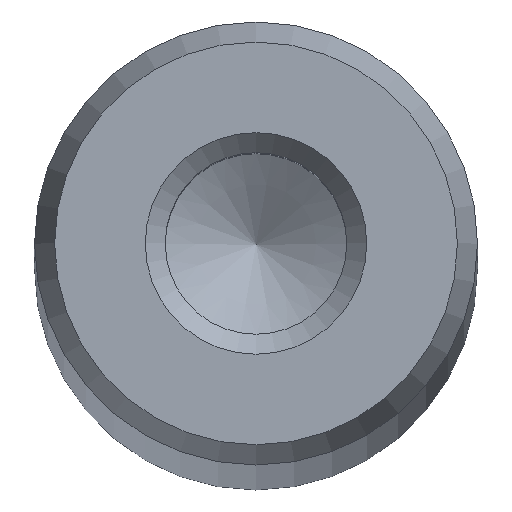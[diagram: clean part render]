
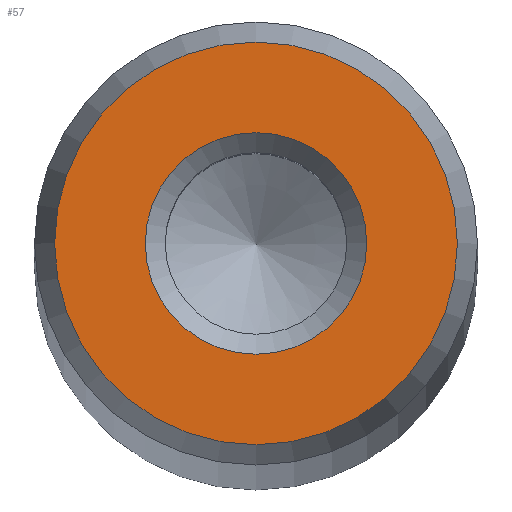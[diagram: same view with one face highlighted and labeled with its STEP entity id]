
A CAD part, top view. The second image highlights one B-rep face of the part: STEP entity #57.
In plain terms, the highlighted planar face has unit normal (0, 0, 1).
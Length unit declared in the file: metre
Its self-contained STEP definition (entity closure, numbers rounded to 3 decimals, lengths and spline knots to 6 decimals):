
#57 = ADVANCED_FACE( '', ( #120, #121 ), #122, .T. );
#120 = FACE_OUTER_BOUND( '', #179, .T. );
#121 = FACE_BOUND( '', #180, .T. );
#122 = PLANE( '', #181 );
#179 = EDGE_LOOP( '', ( #252 ) );
#180 = EDGE_LOOP( '', ( #253 ) );
#181 = AXIS2_PLACEMENT_3D( '', #254, #255, #256 );
#252 = ORIENTED_EDGE( '', *, *, #286, .T. );
#253 = ORIENTED_EDGE( '', *, *, #293, .T. );
#254 = CARTESIAN_POINT( '', ( 0., 0., 0.389 ) );
#255 = DIRECTION( '', ( 0., 0., 1. ) );
#256 = DIRECTION( '', ( 1., 0., 0. ) );
#286 = EDGE_CURVE( '', #319, #319, #320, .T. );
#293 = EDGE_CURVE( '', #329, #329, #330, .T. );
#319 = VERTEX_POINT( '', #356 );
#320 = CIRCLE( '', #357, 0.005454 );
#329 = VERTEX_POINT( '', #366 );
#330 = CIRCLE( '', #367, 0.003 );
#356 = CARTESIAN_POINT( '', ( 0.005454, 0., 0.389 ) );
#357 = AXIS2_PLACEMENT_3D( '', #394, #395, #396 );
#366 = CARTESIAN_POINT( '', ( 0.003, 0., 0.389 ) );
#367 = AXIS2_PLACEMENT_3D( '', #403, #404, #405 );
#394 = CARTESIAN_POINT( '', ( 0., 0., 0.389 ) );
#395 = DIRECTION( '', ( 0., 0., 1. ) );
#396 = DIRECTION( '', ( 1., 0., 0. ) );
#403 = CARTESIAN_POINT( '', ( 0., 0., 0.389 ) );
#404 = DIRECTION( '', ( 0., 0., -1. ) );
#405 = DIRECTION( '', ( 1., 0., 0. ) );
